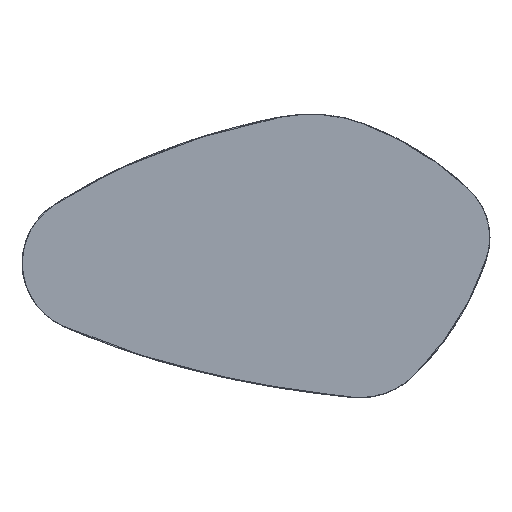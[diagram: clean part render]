
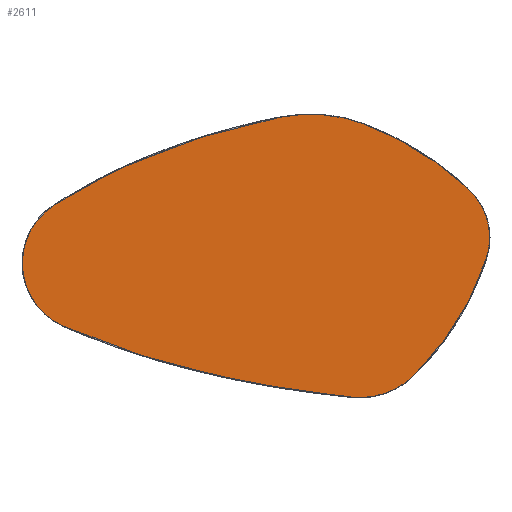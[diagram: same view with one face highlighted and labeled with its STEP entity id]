
A CAD part, top view. The second image highlights one B-rep face of the part: STEP entity #2611.
In plain terms, the highlighted planar face has unit normal (0, 0, 1).
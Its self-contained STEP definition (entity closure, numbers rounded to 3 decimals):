
#55=B_SPLINE_CURVE_WITH_KNOTS('',3,(#4837,#4838,#4839,#4840,#4841,#4842,
#4843,#4844,#4845,#4846,#4847,#4848),.UNSPECIFIED.,.F.,.F.,(4,1,1,1,1,1,
1,1,1,4),(0.,0.079,0.158,0.238,0.317,
0.356,0.396,0.475,0.554,
0.634),.UNSPECIFIED.);
#56=B_SPLINE_CURVE_WITH_KNOTS('',3,(#4853,#4854,#4855,#4856,#4857,#4858,
#4859,#4860,#4861,#4862,#4863),.UNSPECIFIED.,.F.,.F.,(4,1,1,1,1,1,1,1,4),
(0.,0.097,0.194,0.242,0.29,
0.387,0.484,0.581,0.774),
 .UNSPECIFIED.);
#57=B_SPLINE_CURVE_WITH_KNOTS('',3,(#4867,#4868,#4869,#4870,#4871,#4872,
#4873,#4874,#4875,#4876,#4877,#4878,#4879),.UNSPECIFIED.,.F.,.F.,(4,1,1,
1,1,1,1,1,1,1,4),(0.,0.045,0.09,0.113,
0.135,0.158,0.18,0.203,
0.225,0.271,0.361),.UNSPECIFIED.);
#58=B_SPLINE_CURVE_WITH_KNOTS('',3,(#4883,#4884,#4885,#4886,#4887,#4888,
#4889,#4890,#4891),.UNSPECIFIED.,.F.,.F.,(4,1,1,1,1,1,4),(0.,0.079,
0.119,0.159,0.198,0.238,
0.318),.UNSPECIFIED.);
#1038=ORIENTED_EDGE('',*,*,#1482,.T.);
#1039=ORIENTED_EDGE('',*,*,#1483,.T.);
#1040=ORIENTED_EDGE('',*,*,#1484,.T.);
#1041=ORIENTED_EDGE('',*,*,#1485,.T.);
#1042=ORIENTED_EDGE('',*,*,#1486,.T.);
#1043=ORIENTED_EDGE('',*,*,#1487,.T.);
#1044=ORIENTED_EDGE('',*,*,#1488,.T.);
#1045=ORIENTED_EDGE('',*,*,#1489,.T.);
#1482=EDGE_CURVE('',#1740,#1741,#55,.T.);
#1483=EDGE_CURVE('',#1741,#1742,#1886,.F.);
#1484=EDGE_CURVE('',#1742,#1743,#56,.T.);
#1485=EDGE_CURVE('',#1743,#1744,#1887,.F.);
#1486=EDGE_CURVE('',#1744,#1745,#57,.T.);
#1487=EDGE_CURVE('',#1745,#1746,#1888,.F.);
#1488=EDGE_CURVE('',#1746,#1747,#58,.T.);
#1489=EDGE_CURVE('',#1747,#1740,#1889,.F.);
#1740=VERTEX_POINT('',#4849);
#1741=VERTEX_POINT('',#4850);
#1742=VERTEX_POINT('',#4852);
#1743=VERTEX_POINT('',#4864);
#1744=VERTEX_POINT('',#4866);
#1745=VERTEX_POINT('',#4880);
#1746=VERTEX_POINT('',#4882);
#1747=VERTEX_POINT('',#4892);
#1886=CIRCLE('',#3120,179.);
#1887=CIRCLE('',#3121,199.);
#1888=CIRCLE('',#3122,174.);
#1889=CIRCLE('',#3123,399.);
#2101=EDGE_LOOP('',(#1038,#1039,#1040,#1041,#1042,#1043,#1044,#1045));
#2341=FACE_BOUND('',#2101,.T.);
#2468=PLANE('',#3119);
#2611=ADVANCED_FACE('',(#2341),#2468,.F.);
#3119=AXIS2_PLACEMENT_3D('',#4836,#3853,#3854);
#3120=AXIS2_PLACEMENT_3D('',#4851,#3855,#3856);
#3121=AXIS2_PLACEMENT_3D('',#4865,#3857,#3858);
#3122=AXIS2_PLACEMENT_3D('',#4881,#3859,#3860);
#3123=AXIS2_PLACEMENT_3D('',#4893,#3861,#3862);
#3853=DIRECTION('',(0.,0.,-1.));
#3854=DIRECTION('',(-1.,0.,0.));
#3855=DIRECTION('',(0.,0.,-1.));
#3856=DIRECTION('',(-1.,0.,0.));
#3857=DIRECTION('',(0.,0.,-1.));
#3858=DIRECTION('',(-1.,0.,0.));
#3859=DIRECTION('',(0.,0.,-1.));
#3860=DIRECTION('',(-1.,0.,0.));
#3861=DIRECTION('',(0.,0.,-1.));
#3862=DIRECTION('',(-1.,0.,0.));
#4836=CARTESIAN_POINT('',(348.808,330.628,36.));
#4837=CARTESIAN_POINT('',(-21.231,329.176,36.));
#4838=CARTESIAN_POINT('',(-45.178,318.003,36.));
#4839=CARTESIAN_POINT('',(-92.614,294.777,36.));
#4840=CARTESIAN_POINT('',(-162.337,257.135,36.));
#4841=CARTESIAN_POINT('',(-230.453,216.563,36.));
#4842=CARTESIAN_POINT('',(-285.583,180.312,36.));
#4843=CARTESIAN_POINT('',(-328.716,149.73,36.));
#4844=CARTESIAN_POINT('',(-371.018,118.188,36.));
#4845=CARTESIAN_POINT('',(-422.318,76.928,36.));
#4846=CARTESIAN_POINT('',(-481.264,24.384,36.));
#4847=CARTESIAN_POINT('',(-518.758,-12.738,36.));
#4848=CARTESIAN_POINT('',(-537.038,-31.841,36.));
#4849=CARTESIAN_POINT('',(-21.231,329.176,36.));
#4850=CARTESIAN_POINT('',(-537.038,-31.841,36.));
#4851=CARTESIAN_POINT('',(-407.709,-155.595,36.));
#4852=CARTESIAN_POINT('',(-438.385,-331.947,36.));
#4853=CARTESIAN_POINT('',(-438.385,-331.947,36.));
#4854=CARTESIAN_POINT('',(-406.547,-337.485,36.));
#4855=CARTESIAN_POINT('',(-342.677,-346.935,36.));
#4856=CARTESIAN_POINT('',(-262.393,-354.913,36.));
#4857=CARTESIAN_POINT('',(-197.897,-359.131,36.));
#4858=CARTESIAN_POINT('',(-133.386,-361.944,36.));
#4859=CARTESIAN_POINT('',(-52.705,-362.931,36.));
#4860=CARTESIAN_POINT('',(44.213,-360.362,36.));
#4861=CARTESIAN_POINT('',(173.,-352.344,36.));
#4862=CARTESIAN_POINT('',(269.196,-341.61,36.));
#4863=CARTESIAN_POINT('',(333.174,-332.687,36.));
#4864=CARTESIAN_POINT('',(333.174,-332.687,36.));
#4865=CARTESIAN_POINT('',(305.687,-135.595,36.));
#4866=CARTESIAN_POINT('',(475.029,-240.114,36.));
#4867=CARTESIAN_POINT('',(475.029,-240.114,36.));
#4868=CARTESIAN_POINT('',(482.936,-227.303,36.));
#4869=CARTESIAN_POINT('',(498.006,-201.283,36.));
#4870=CARTESIAN_POINT('',(514.935,-167.708,36.));
#4871=CARTESIAN_POINT('',(527.274,-140.244,36.));
#4872=CARTESIAN_POINT('',(535.89,-119.413,36.));
#4873=CARTESIAN_POINT('',(543.872,-98.331,36.));
#4874=CARTESIAN_POINT('',(551.217,-76.994,36.));
#4875=CARTESIAN_POINT('',(557.911,-55.431,36.));
#4876=CARTESIAN_POINT('',(565.928,-26.532,36.));
#4877=CARTESIAN_POINT('',(577.628,24.512,36.));
#4878=CARTESIAN_POINT('',(583.741,69.029,36.));
#4879=CARTESIAN_POINT('',(586.15,99.034,36.));
#4880=CARTESIAN_POINT('',(586.15,99.034,36.));
#4881=CARTESIAN_POINT('',(412.709,112.961,36.));
#4882=CARTESIAN_POINT('',(495.908,265.781,36.));
#4883=CARTESIAN_POINT('',(495.908,265.781,36.));
#4884=CARTESIAN_POINT('',(472.64,278.449,36.));
#4885=CARTESIAN_POINT('',(436.984,295.961,36.));
#4886=CARTESIAN_POINT('',(387.954,316.032,36.));
#4887=CARTESIAN_POINT('',(350.543,329.342,36.));
#4888=CARTESIAN_POINT('',(312.516,340.849,36.));
#4889=CARTESIAN_POINT('',(261.325,353.655,36.));
#4890=CARTESIAN_POINT('',(222.292,360.416,36.));
#4891=CARTESIAN_POINT('',(195.99,363.637,36.));
#4892=CARTESIAN_POINT('',(195.99,363.637,36.));
#4893=CARTESIAN_POINT('',(147.476,-32.402,36.));
